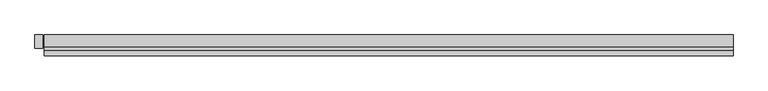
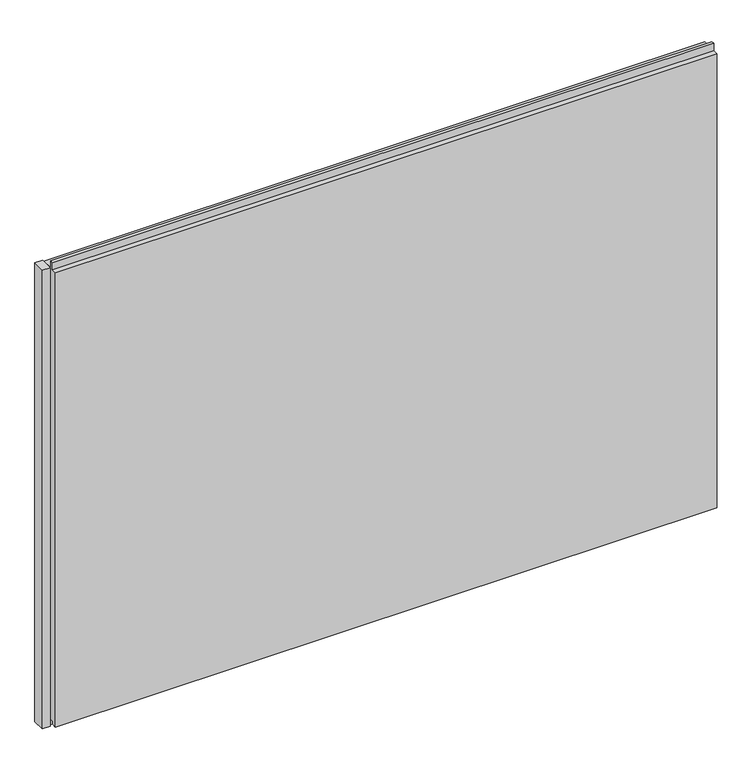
"""IFC4 building model written with IfcOpenShell, lengths in millimetres: plate geometry, Trimo_Qbiss Screen_Normal Panel-HORIZONTAL : HR - FB-F."""

from ifc_helpers import new_model, si_unit, frame, origin, place, context, project, spatial, polyline, outline, extrude, source, transform, mapped, element, save


def plate_97150e6f(model_context):
    return source(origin(), model_context, "Body", "SweptSolid", [
        extrude(outline(polyline([(-840.5, 67.8978162), (-859.5, 67.8978162), (-859.5, 100.0), (-840.5, 100.0), (-840.5, 67.8978162)])), frame((0.0, 0.0, -1.0), z_axis=(0.0, 0.0, 1.0), x_axis=(1.0, 0.0, 0.0)), (0.0, 0.0, 1.0), 1200.0),
        extrude(outline(polyline([(71.0, 1196.0), (100.0, 1196.0), (100.0, 0.0), (72.0, 0.0), (72.0, 15.5), (62.0, 15.5), (62.0, 7.0), (50.0, 7.0), (50.0, 1196.0), (63.0, 1196.0), (63.0, 1214.5), (71.0, 1214.5), (71.0, 1196.0)])), frame((-837.5, 0.0, 0.0), z_axis=(1.0, 0.0, 0.0), x_axis=(0.0, 1.0, 0.0)), (0.0, 0.0, 1.0), 1637.5),
    ])


if __name__ == "__main__":
    model = new_model("IFC4")
    model_context = context("Model", 3, world=origin())
    ifc_project = project(units=[si_unit("LENGTHUNIT", "METRE", prefix="MILLI")], contexts=[model_context])
    site = spatial("IfcSite", under=ifc_project)
    building = spatial("IfcBuilding", under=site)
    placement = place(None, origin())
    plate_shape = plate_97150e6f(model_context)
    element("IfcPlate", 1, ObjectType="Trimo_Qbiss Screen_Normal Panel-HORIZONTAL : HR - FB-F", at=placement, inside=building, context=model_context, shape_type="MappedRepresentation", body=[
        mapped(plate_shape, transform((0.0, 0.0, 0.0), x_axis=(1.0, 0.0, 0.0), y_axis=(0.0, 1.0, 0.0), z_axis=(0.0, 0.0, 1.0))),
    ])
    save(model, "model.ifc")
